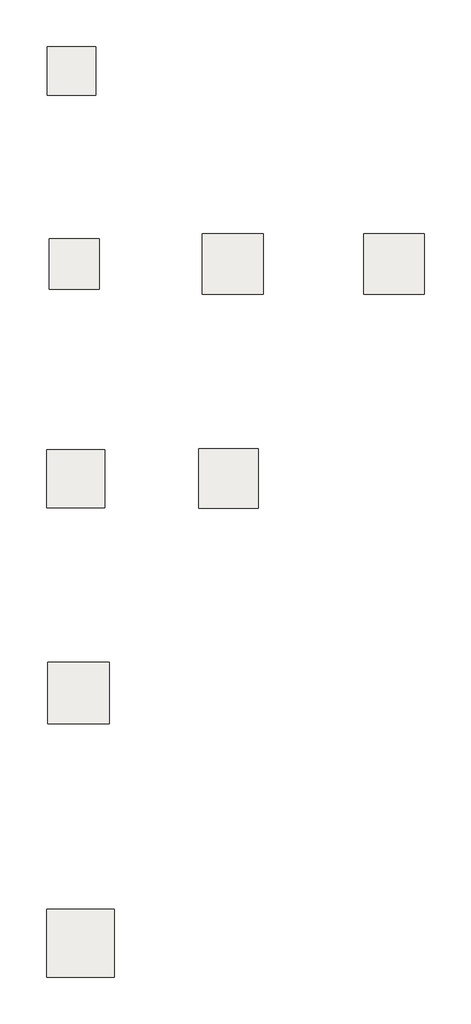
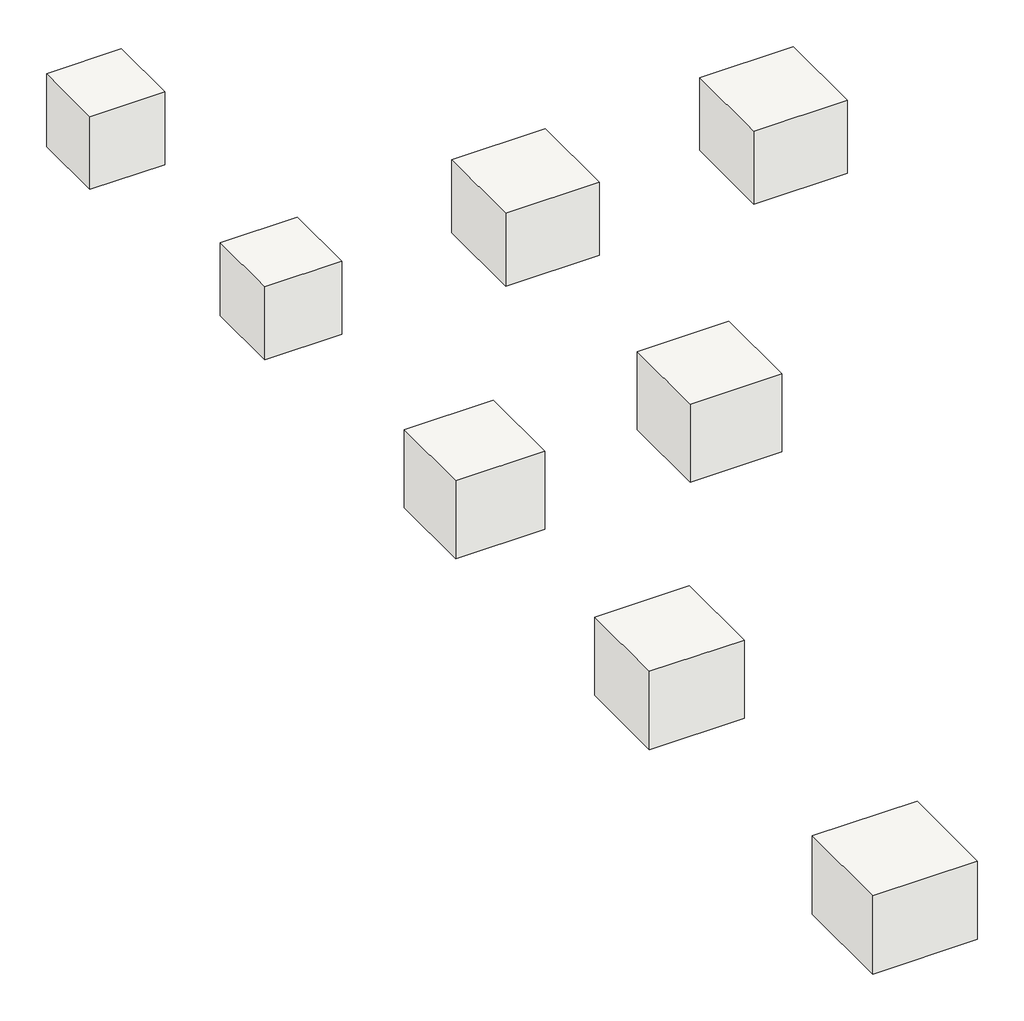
# One storey: 8 slabs.
"""IFC4 building model written with IfcOpenShell, lengths in millimetres."""

from ifc_helpers import new_model, si_unit, frame, origin, place, context, project, spatial, polyline, outline, extrude, transform, mapped, element, save
from components import spt251_2cdbd7e4, spt301_a27fa21e, spt302_e6ab484a, spt351_118434c7, spt352_9df404c8, spt451_f702c639

model = new_model("IFC4")

# Units and contexts
model_context = context("Model", 3, world=origin())
ifc_project = project(units=[si_unit("LENGTHUNIT", "METRE", prefix="MILLI")], contexts=[model_context])

# Site, building, storey
site = spatial("IfcSite", under=ifc_project)
building = spatial("IfcBuilding", under=site)
storey = spatial("IfcBuildingStorey", under=building, Name="レベル 1", Elevation=0.0)

# Slabs
placement = place(None, origin())
spt251_shape = spt251_2cdbd7e4(model_context)
element("IfcSlab", 1, ObjectType="柱形_SPT : SPT251", at=placement, inside=storey, context=model_context, shape_type="MappedRepresentation", body=[
    mapped(spt251_shape, transform((-18324.1210172, 14789.5887732, 0.0), x_axis=(1.0, 0.0, 0.0), y_axis=(0.0, 1.0, 0.0), z_axis=(0.0, 0.0, 1.0))),
])
spt301_shape = spt301_a27fa21e(model_context)
element("IfcSlab", 2, ObjectType="柱形_SPT : SPT301", at=placement, inside=storey, context=model_context, shape_type="MappedRepresentation", body=[
    mapped(spt301_shape, transform((-18289.1210172, 12089.5887732, 0.0), x_axis=(1.0, 0.0, 0.0), y_axis=(0.0, 1.0, 0.0), z_axis=(0.0, 0.0, 1.0))),
])
spt302_shape = spt302_e6ab484a(model_context)
element("IfcSlab", 3, ObjectType="柱形_SPT : SPT302", at=placement, inside=storey, context=model_context, shape_type="MappedRepresentation", body=[
    mapped(spt302_shape, transform((-16070.7168251, 12089.5887732, 0.0), x_axis=(1.0, 0.0, 0.0), y_axis=(0.0, 1.0, 0.0), z_axis=(0.0, 0.0, 1.0))),
])
element("IfcSlab", 4, ObjectType="柱形_SPT : SPT303", at=placement, inside=storey, context=model_context, shape_type="MappedRepresentation", body=[
    mapped(spt302_shape, transform((-13817.3126329, 12089.5887732, 0.0), x_axis=(1.0, 0.0, 0.0), y_axis=(0.0, 1.0, 0.0), z_axis=(0.0, 0.0, 1.0))),
])
spt351_shape = spt351_118434c7(model_context)
element("IfcSlab", 5, ObjectType="柱形_SPT : SPT351", at=placement, inside=storey, context=model_context, shape_type="MappedRepresentation", body=[
    mapped(spt351_shape, transform((-18264.1210172, 9089.5887732, 0.0), x_axis=(1.0, 0.0, 0.0), y_axis=(0.0, 1.0, 0.0), z_axis=(0.0, 0.0, 1.0))),
])
spt352_shape = spt352_9df404c8(model_context)
element("IfcSlab", 6, ObjectType="柱形_SPT : SPT352", at=placement, inside=storey, context=model_context, shape_type="MappedRepresentation", body=[
    mapped(spt352_shape, transform((-16130.7168251, 9089.5887732, 0.0), x_axis=(1.0, 0.0, 0.0), y_axis=(0.0, 1.0, 0.0), z_axis=(0.0, 0.0, 1.0))),
])
element("IfcSlab", 7, ObjectType="柱形_SPT : SPT401", at=placement, inside=storey, context=model_context, shape_type="SweptSolid", body=[
    extrude(outline(polyline([(-17796.0106955, 6519.5887732), (-17796.0106955, 5659.5887732), (-18656.0106955, 5659.5887732), (-18656.0106955, 6519.5887732), (-17796.0106955, 6519.5887732)])), frame((0.0, 0.0, -750.0), z_axis=(0.0, 0.0, 1.0), x_axis=(1.0, 0.0, 0.0)), (0.0, 0.0, 1.0), 750.0),
])
spt451_shape = spt451_f702c639(model_context)
element("IfcSlab", 8, ObjectType="柱形_SPT : SPT451", at=placement, inside=storey, context=model_context, shape_type="MappedRepresentation", body=[
    mapped(spt451_shape, transform((-18199.1210172, 2589.5887732, 0.0), x_axis=(1.0, 0.0, 0.0), y_axis=(0.0, 1.0, 0.0), z_axis=(0.0, 0.0, 1.0))),
])

save(model, "model.ifc")
